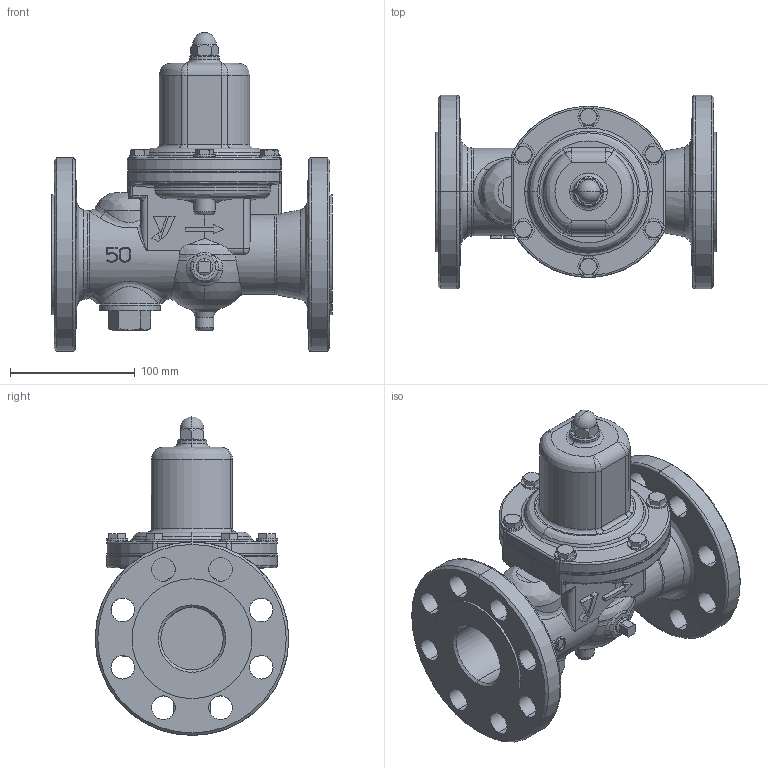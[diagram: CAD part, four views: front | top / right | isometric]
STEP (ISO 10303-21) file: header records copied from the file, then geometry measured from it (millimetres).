
FILE_DESCRIPTION( (''), '2;1');
FILE_NAME ('PC2091.11224.GD-29S-NE 50A_21128.stp','2026-03-26T17:15:24',(''),(''),'spGate 21.9.4 (****-****-****-****)','','');
FILE_SCHEMA (('AUTOMOTIVE_DESIGN'));
Length unit declared in the file: millimetre
Products named in the file (9): Assembly; ダイヤフラム　50Ａ; 3D 保護筒; ストレーナキャップ　32-50A; CP_''_JIS B 1183 六角袋ナット 3形 M''_705; CP_''_JIS B 1180 呼び径六角ボルト''_17166; プラグ3D; 3D 20K 弁箱; CP_平座金(ミ''_JIS B 1256 みがき丸 8_740
Assembly tree (19 placements, depth 2):
  Assembly
    ダイヤフラム　50Ａ
    3D 保護筒
    ストレーナキャップ　32-50A
    CP_''_JIS B 1183 六角袋ナット 3形 M''_705
    CP_''_JIS B 1180 呼び径六角ボルト''_17166  x6
    プラグ3D  x2
    3D 20K 弁箱
    CP_平座金(ミ''_JIS B 1256 みがき丸 8_740  x6
Bounding box: 225 x 155 x 255.4 mm (x, y, z)
Volume: 1727374.6 mm3; surface area: 302776.5 mm2
Topology: 19 solids, 19 shells, 704 faces, 1699 edges, 1058 vertices
Faces by surface type: bspline 250, cylinder 229, plane 204, sphere 21
Full cylindrical faces by diameter (mm): 70.385 x1
Entity records: 34185 total; most frequent: CARTESIAN_POINT 11839, ORIENTED_EDGE 2676, DIRECTION 2069, COLOUR_RGB 1886, PRESENTATION_STYLE_ASSIGNMENT 1886, STYLED_ITEM 1886, EDGE_CURVE 1338, DRAUGHTING_PRE_DEFINED_CURVE_FONT 1338
